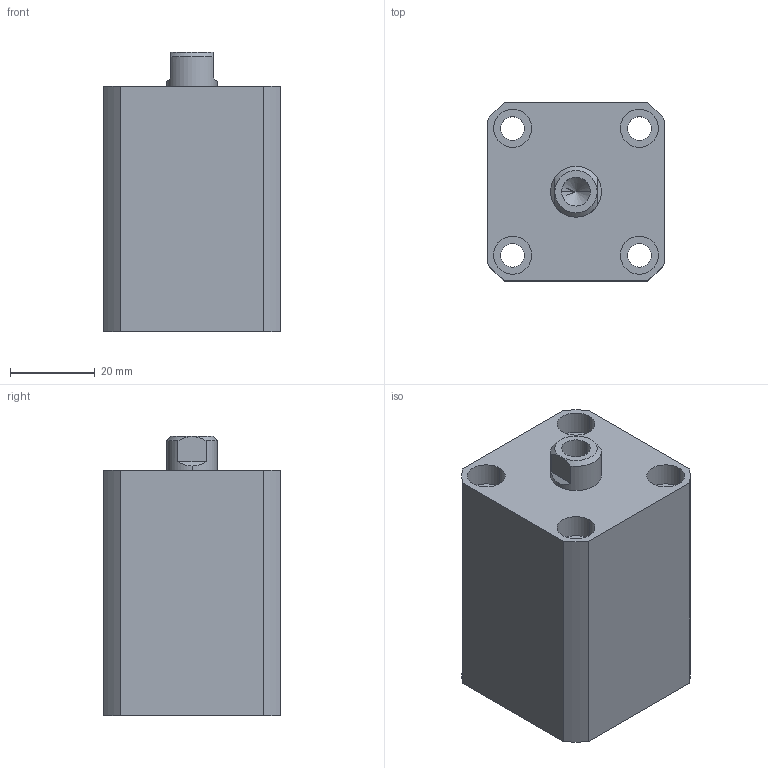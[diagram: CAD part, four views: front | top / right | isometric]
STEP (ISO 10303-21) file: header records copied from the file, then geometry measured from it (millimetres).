
FILE_DESCRIPTION (( 'STEP AP203' ), '1' );
FILE_NAME ('HTB-SDMB20-15N.STEP', '2019-10-08T11:54:09', ( '微软用户' ), ( '微软中国' ), 'SwSTEP 2.0', 'SolidWorks 2012', '' );
FILE_SCHEMA (( 'CONFIG_CONTROL_DESIGN' ));
Length unit declared in the file: millimetre
Products named in the file (3): HTB-SDMB20-15掛极; HTB-SDMB20-15N活塞杆; HTB-SDMB20-15N
Assembly tree (2 placements, depth 2):
  HTB-SDMB20-15N
    HTB-SDMB20-15掛极
    HTB-SDMB20-15N活塞杆
Bounding box: 42 x 42 x 66 mm (x, y, z)
Volume: 90141.3 mm3; surface area: 23709.5 mm2
Topology: 2 solids, 2 shells, 136 faces, 326 edges, 213 vertices
Faces by surface type: plane 64, cylinder 46, bspline 16, torus 6, cone 4
Entity records: 5023 total; most frequent: CARTESIAN_POINT 1570, ORIENTED_EDGE 648, DIRECTION 640, EDGE_CURVE 324, AXIS2_PLACEMENT_3D 231, VERTEX_POINT 213, VECTOR 178, LINE 178
